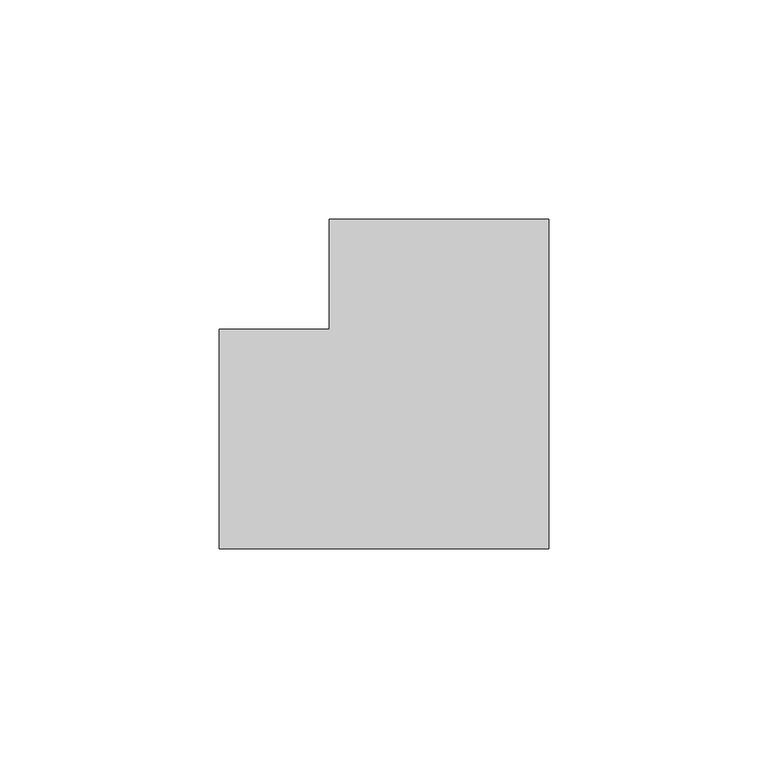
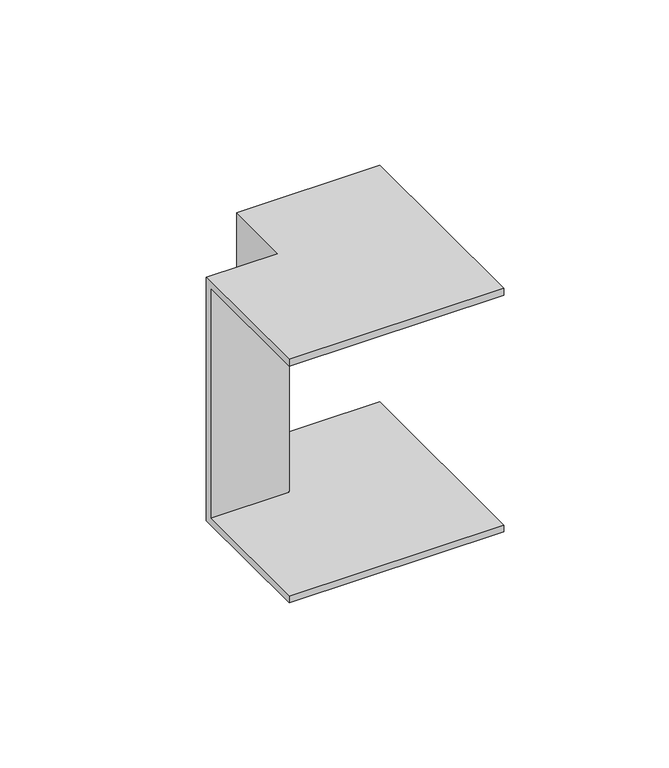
"""IFC4 building model written with IfcOpenShell, lengths in millimetres: cable carrier fitting geometry, КНС_УголВнешний_ILF_DKC : Белый."""

from ifc_helpers import new_model, si_unit, origin, place, context, project, spatial, faceted_brep, source, transform, mapped, element, save


def cable_carrier_fitting_5d25004a(model_context):
    return source(origin(), model_context, "Body", "Brep", [
        faceted_brep([(-50.0, 25.0, 45.0), (-50.0, 25.0, -45.0), (-50.0, -25.0, -45.0), (-50.0, -25.0, -42.5), (-50.0, 22.5, -42.5), (-50.0, 22.5, 42.5), (-50.0, -25.0, 42.5), (-50.0, -25.0, 45.0), (-25.0, 50.0, 45.0), (25.0, 50.0, 45.0), (25.0, 50.0, 42.5), (-22.5, 50.0, 42.5), (-22.5, 50.0, -42.5), (25.0, 50.0, -42.5), (25.0, 50.0, -45.0), (-25.0, 50.0, -45.0), (-25.0, 25.0, 45.0), (-25.0, 25.0, -45.0), (25.0, -25.0, -45.0), (25.0, -25.0, -42.5), (-22.5, 22.5, -42.5), (-22.5, 22.5, 42.5), (25.0, -25.0, 42.5), (25.0, -25.0, 45.0)], [[[0, 1, 2, 3, 4, 5, 6, 7]], [[8, 9, 10, 11, 12, 13, 14, 15]], [[1, 0, 16, 17]], [[2, 1, 17, 15, 14, 18]], [[3, 2, 18, 19]], [[4, 3, 19, 13, 12, 20]], [[5, 4, 20, 21]], [[6, 5, 21, 11, 10, 22]], [[7, 6, 22, 23]], [[0, 7, 23, 9, 8, 16]], [[17, 16, 8, 15]], [[19, 18, 14, 13]], [[21, 20, 12, 11]], [[23, 22, 10, 9]]]),
    ])


if __name__ == "__main__":
    model = new_model("IFC4")
    model_context = context("Model", 3, world=origin())
    ifc_project = project(units=[si_unit("LENGTHUNIT", "METRE", prefix="MILLI")], contexts=[model_context])
    site = spatial("IfcSite", under=ifc_project)
    building = spatial("IfcBuilding", under=site)
    placement = place(None, origin())
    cable_carrier_fitting_shape = cable_carrier_fitting_5d25004a(model_context)
    element("IfcCableCarrierFitting", 1, ObjectType="КНС_УголВнешний_ILF_DKC : Белый", at=placement, inside=building, context=model_context, shape_type="MappedRepresentation", body=[
        mapped(cable_carrier_fitting_shape, transform((0.0, 0.0, 0.0), x_axis=(1.0, 0.0, 0.0), y_axis=(0.0, 1.0, 0.0), z_axis=(0.0, 0.0, 1.0))),
    ])
    save(model, "model.ifc")
